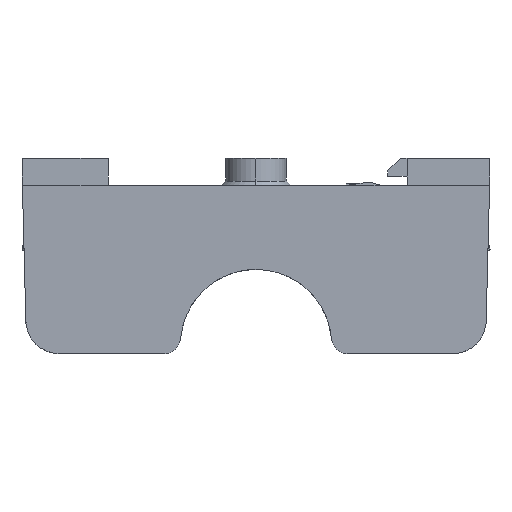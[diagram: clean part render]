
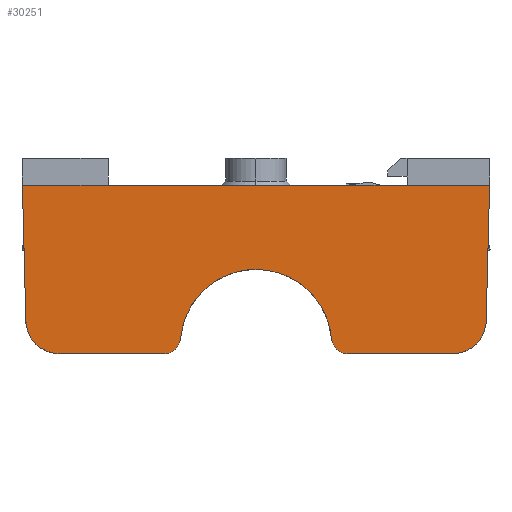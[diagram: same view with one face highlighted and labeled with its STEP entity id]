
A CAD part, left-side view. The second image highlights one B-rep face of the part: STEP entity #30251.
In plain terms, the highlighted planar face has unit normal (-1, 0, -0.013).
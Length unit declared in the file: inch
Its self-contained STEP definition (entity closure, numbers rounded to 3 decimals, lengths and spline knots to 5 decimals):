
#5078=DIRECTION('',(0.012,-0.025,-1.));
#5079=VECTOR('',#5078,0.6341);
#5080=CARTESIAN_POINT('',(0.,2.18504,-0.12598));
#5081=LINE('',#5080,#5079);
#5642=DIRECTION('',(0.,-1.,0.));
#5643=VECTOR('',#5642,1.39764);
#5644=CARTESIAN_POINT('',(0.,1.78346,-0.12598));
#5645=LINE('',#5644,#5643);
#5646=DIRECTION('',(0.,-1.,0.));
#5647=VECTOR('',#5646,0.38583);
#5648=CARTESIAN_POINT('',(0.,0.38583,-0.12598));
#5649=LINE('',#5648,#5647);
#5650=DIRECTION('',(0.012,0.025,-1.));
#5651=VECTOR('',#5650,0.6341);
#5652=CARTESIAN_POINT('',(0.,0.,-0.12598));
#5653=LINE('',#5652,#5651);
#5654=CARTESIAN_POINT('',(0.00984,0.17328,
-0.91339));
#5655=CARTESIAN_POINT('',(0.00984,0.16048,
-0.91339));
#5656=CARTESIAN_POINT('',(0.00981,0.13777,
-0.91042));
#5657=CARTESIAN_POINT('',(0.00964,0.09933,
-0.89734));
#5658=CARTESIAN_POINT('',(0.00931,0.06118,
-0.87083));
#5659=CARTESIAN_POINT('',(0.00884,0.03373,
-0.83337));
#5660=CARTESIAN_POINT('',(0.00837,0.01969,
-0.79526));
#5661=CARTESIAN_POINT('',(0.00808,0.01617,
-0.77264));
#5662=CARTESIAN_POINT('',(0.00792,0.01585,
-0.75984));
#5686=DIRECTION('',(0.,-1.,0.));
#5687=VECTOR('',#5686,0.48796);
#5688=CARTESIAN_POINT('',(0.00984,0.66124,
-0.91339));
#5689=LINE('',#5688,#5687);
#5706=CARTESIAN_POINT('',(0.00895,0.73966,
-0.8418));
#5707=CARTESIAN_POINT('',(0.0091,0.73857,
-0.85373));
#5708=CARTESIAN_POINT('',(0.00933,0.73194,
-0.87271));
#5709=CARTESIAN_POINT('',(0.0096,0.71533,
-0.89389));
#5710=CARTESIAN_POINT('',(0.00978,0.69273,
-0.90851));
#5711=CARTESIAN_POINT('',(0.00984,0.67322,
-0.91339));
#5712=CARTESIAN_POINT('',(0.00984,0.66124,
-0.91339));
#5714=CARTESIAN_POINT('',(0.00895,1.44538,
-0.8418));
#5715=CARTESIAN_POINT('',(0.00861,1.44293,
-0.81496));
#5716=CARTESIAN_POINT('',(0.00801,1.43266,
-0.76717));
#5717=CARTESIAN_POINT('',(0.00701,1.3984,
-0.68658));
#5718=CARTESIAN_POINT('',(0.00602,1.33576,
-0.60757));
#5719=CARTESIAN_POINT('',(0.00533,1.25138,
-0.55236));
#5720=CARTESIAN_POINT('',(0.00499,1.16801,
-0.52558));
#5721=CARTESIAN_POINT('',(0.00492,1.11948,
-0.51969));
#5722=CARTESIAN_POINT('',(0.00492,1.09252,
-0.51969));
#5724=CARTESIAN_POINT('',(0.00492,1.09252,
-0.51969));
#5725=CARTESIAN_POINT('',(0.00492,1.06556,
-0.51969));
#5726=CARTESIAN_POINT('',(0.00499,1.01703,
-0.52558));
#5727=CARTESIAN_POINT('',(0.00533,0.93366,
-0.55236));
#5728=CARTESIAN_POINT('',(0.00602,0.84928,
-0.60757));
#5729=CARTESIAN_POINT('',(0.00701,0.78664,
-0.68658));
#5730=CARTESIAN_POINT('',(0.00801,0.75238,
-0.76717));
#5731=CARTESIAN_POINT('',(0.00861,0.74211,
-0.81496));
#5732=CARTESIAN_POINT('',(0.00895,0.73966,
-0.8418));
#5762=CARTESIAN_POINT('',(0.00984,1.5238,
-0.91339));
#5763=CARTESIAN_POINT('',(0.00984,1.51182,
-0.91339));
#5764=CARTESIAN_POINT('',(0.00978,1.49231,
-0.90851));
#5765=CARTESIAN_POINT('',(0.0096,1.46971,
-0.89389));
#5766=CARTESIAN_POINT('',(0.00933,1.4531,
-0.87271));
#5767=CARTESIAN_POINT('',(0.0091,1.44647,
-0.85373));
#5768=CARTESIAN_POINT('',(0.00895,1.44538,
-0.8418));
#5778=DIRECTION('',(0.,-1.,0.));
#5779=VECTOR('',#5778,0.48796);
#5780=CARTESIAN_POINT('',(0.00984,2.01176,
-0.91339));
#5781=LINE('',#5780,#5779);
#5786=CARTESIAN_POINT('',(0.00792,2.16919,
-0.75984));
#5787=CARTESIAN_POINT('',(0.00808,2.16887,
-0.77264));
#5788=CARTESIAN_POINT('',(0.00837,2.16534,
-0.79526));
#5789=CARTESIAN_POINT('',(0.00884,2.15131,
-0.83337));
#5790=CARTESIAN_POINT('',(0.00931,2.12386,
-0.87083));
#5791=CARTESIAN_POINT('',(0.00964,2.08571,
-0.89734));
#5792=CARTESIAN_POINT('',(0.00981,2.04727,
-0.91042));
#5793=CARTESIAN_POINT('',(0.00984,2.02456,
-0.91339));
#5794=CARTESIAN_POINT('',(0.00984,2.01176,
-0.91339));
#5810=DIRECTION('',(0.,1.,0.));
#5811=VECTOR('',#5810,0.40157);
#5812=CARTESIAN_POINT('',(0.,1.78346,-0.12598));
#5813=LINE('',#5812,#5811);
#17583=CARTESIAN_POINT('',(0.,0.38583,-0.12598));
#17584=VERTEX_POINT('',#17583);
#17585=CARTESIAN_POINT('',(0.,1.78346,-0.12598));
#17586=VERTEX_POINT('',#17585);
#18737=CARTESIAN_POINT('',(0.00792,0.01585,
-0.75984));
#18738=VERTEX_POINT('',#18737);
#18739=CARTESIAN_POINT('',(0.,0.,-0.12598));
#18740=VERTEX_POINT('',#18739);
#18851=VERTEX_POINT('',#5654);
#18852=VERTEX_POINT('',#5706);
#18853=VERTEX_POINT('',#5712);
#18854=VERTEX_POINT('',#5724);
#18855=VERTEX_POINT('',#5714);
#18856=VERTEX_POINT('',#5762);
#18857=VERTEX_POINT('',#5786);
#18858=VERTEX_POINT('',#5794);
#18859=CARTESIAN_POINT('',(0.,2.18504,-0.12598));
#18860=VERTEX_POINT('',#18859);
#30222=CARTESIAN_POINT('',(0.00492,1.09252,
-0.51969));
#30223=DIRECTION('',(1.,0.,0.012));
#30224=DIRECTION('',(0.012,0.,-1.));
#30225=AXIS2_PLACEMENT_3D('',#30222,#30223,#30224);
#30226=PLANE('',#30225);
#30227=ORIENTED_EDGE('',*,*,#24627,.T.);
#30228=ORIENTED_EDGE('',*,*,#30148,.T.);
#30229=ORIENTED_EDGE('',*,*,#29804,.T.);
#30231=ORIENTED_EDGE('',*,*,#30230,.F.);
#30233=ORIENTED_EDGE('',*,*,#30232,.F.);
#30235=ORIENTED_EDGE('',*,*,#30234,.F.);
#30237=ORIENTED_EDGE('',*,*,#30236,.F.);
#30239=ORIENTED_EDGE('',*,*,#30238,.F.);
#30241=ORIENTED_EDGE('',*,*,#30240,.F.);
#30243=ORIENTED_EDGE('',*,*,#30242,.F.);
#30245=ORIENTED_EDGE('',*,*,#30244,.F.);
#30246=ORIENTED_EDGE('',*,*,#29538,.F.);
#30248=ORIENTED_EDGE('',*,*,#30247,.F.);
#30249=EDGE_LOOP('',(#30227,#30228,#30229,#30231,#30233,#30235,#30237,#30239,
#30241,#30243,#30245,#30246,#30248));
#30250=FACE_OUTER_BOUND('',#30249,.F.);
#30251=ADVANCED_FACE('',(#30250),#30226,.F.);
#5663=B_SPLINE_CURVE_WITH_KNOTS('',3,(#5654,#5655,#5656,#5657,#5658,#5659,#5660,
#5661,#5662),.UNSPECIFIED.,.F.,.F.,(4,1,1,1,1,1,4),(0.,0.125,0.25,0.5,
0.75,0.875,1.),.UNSPECIFIED.);
#5713=B_SPLINE_CURVE_WITH_KNOTS('',3,(#5706,#5707,#5708,#5709,#5710,#5711,
#5712),.UNSPECIFIED.,.F.,.F.,(4,1,1,1,4),(0.,0.25,0.5,0.75,1.),
.UNSPECIFIED.);
#5723=B_SPLINE_CURVE_WITH_KNOTS('',3,(#5714,#5715,#5716,#5717,#5718,#5719,#5720,
#5721,#5722),.UNSPECIFIED.,.F.,.F.,(4,1,1,1,1,1,4),(0.,0.125,0.25,0.5,
0.75,0.875,1.),.UNSPECIFIED.);
#5733=B_SPLINE_CURVE_WITH_KNOTS('',3,(#5724,#5725,#5726,#5727,#5728,#5729,#5730,
#5731,#5732),.UNSPECIFIED.,.F.,.F.,(4,1,1,1,1,1,4),(0.,0.125,0.25,0.5,
0.75,0.875,1.),.UNSPECIFIED.);
#5769=B_SPLINE_CURVE_WITH_KNOTS('',3,(#5762,#5763,#5764,#5765,#5766,#5767,
#5768),.UNSPECIFIED.,.F.,.F.,(4,1,1,1,4),(0.,0.25,0.5,0.75,1.),
.UNSPECIFIED.);
#5795=B_SPLINE_CURVE_WITH_KNOTS('',3,(#5786,#5787,#5788,#5789,#5790,#5791,#5792,
#5793,#5794),.UNSPECIFIED.,.F.,.F.,(4,1,1,1,1,1,4),(0.,0.125,0.25,0.5,
0.75,0.875,1.),.UNSPECIFIED.);
#24627=EDGE_CURVE('',#17586,#17584,#5645,.T.);
#29538=EDGE_CURVE('',#18860,#18857,#5081,.T.);
#29804=EDGE_CURVE('',#18740,#18738,#5653,.T.);
#30148=EDGE_CURVE('',#17584,#18740,#5649,.T.);
#30230=EDGE_CURVE('',#18851,#18738,#5663,.T.);
#30232=EDGE_CURVE('',#18853,#18851,#5689,.T.);
#30234=EDGE_CURVE('',#18852,#18853,#5713,.T.);
#30236=EDGE_CURVE('',#18854,#18852,#5733,.T.);
#30238=EDGE_CURVE('',#18855,#18854,#5723,.T.);
#30240=EDGE_CURVE('',#18856,#18855,#5769,.T.);
#30242=EDGE_CURVE('',#18858,#18856,#5781,.T.);
#30244=EDGE_CURVE('',#18857,#18858,#5795,.T.);
#30247=EDGE_CURVE('',#17586,#18860,#5813,.T.);
